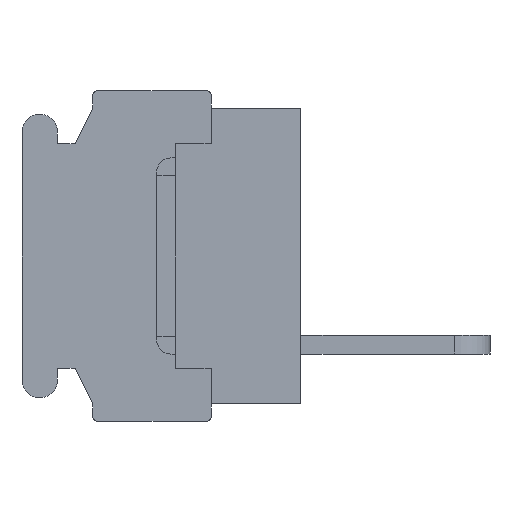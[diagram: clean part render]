
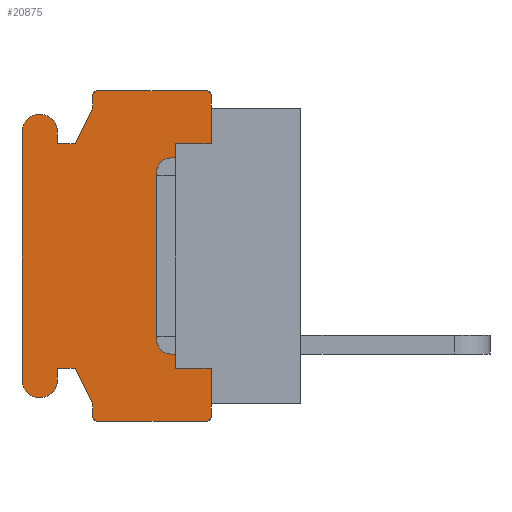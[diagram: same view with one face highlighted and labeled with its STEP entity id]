
A CAD part, left-side view. The second image highlights one B-rep face of the part: STEP entity #20875.
In plain terms, the highlighted planar face has unit normal (-1, 0, 0).
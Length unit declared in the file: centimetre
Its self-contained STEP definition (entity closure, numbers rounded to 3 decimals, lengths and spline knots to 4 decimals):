
#1234=PLANE('',#34277);
#1985=VECTOR('',#22233,1.);
#3166=VECTOR('',#24839,1.);
#3167=VECTOR('',#24840,1.);
#3168=VECTOR('',#24843,1.);
#3169=VECTOR('',#24846,1.);
#3170=VECTOR('',#24847,1.);
#3171=VECTOR('',#24848,1.);
#3172=VECTOR('',#24849,1.);
#3173=VECTOR('',#24852,1.);
#3174=VECTOR('',#24855,1.);
#3175=VECTOR('',#24856,1.);
#3176=VECTOR('',#24857,1.);
#3177=VECTOR('',#24858,1.);
#3178=VECTOR('',#24861,1.);
#3179=VECTOR('',#24864,1.);
#3180=VECTOR('',#24865,1.);
#3181=VECTOR('',#24866,1.);
#3182=VECTOR('',#24867,1.);
#4213=LINE('',#27650,#1985);
#5394=LINE('',#31435,#3166);
#5395=LINE('',#31437,#3167);
#5396=LINE('',#31441,#3168);
#5397=LINE('',#31445,#3169);
#5398=LINE('',#31447,#3170);
#5399=LINE('',#31449,#3171);
#5400=LINE('',#31451,#3172);
#5401=LINE('',#31455,#3173);
#5402=LINE('',#31459,#3174);
#5403=LINE('',#31461,#3175);
#5404=LINE('',#31463,#3176);
#5405=LINE('',#31465,#3177);
#5406=LINE('',#31469,#3178);
#5407=LINE('',#31473,#3179);
#5408=LINE('',#31474,#3180);
#5409=LINE('',#31476,#3181);
#5410=LINE('',#31477,#3182);
#6382=VERTEX_POINT('',#27651);
#6383=VERTEX_POINT('',#27652);
#6479=VERTEX_POINT('',#27921);
#6514=VERTEX_POINT('',#27996);
#7494=VERTEX_POINT('',#31436);
#7495=VERTEX_POINT('',#31438);
#7496=VERTEX_POINT('',#31440);
#7497=VERTEX_POINT('',#31442);
#7498=VERTEX_POINT('',#31444);
#7499=VERTEX_POINT('',#31446);
#7500=VERTEX_POINT('',#31448);
#7501=VERTEX_POINT('',#31450);
#7502=VERTEX_POINT('',#31452);
#7503=VERTEX_POINT('',#31454);
#7504=VERTEX_POINT('',#31456);
#7505=VERTEX_POINT('',#31458);
#7506=VERTEX_POINT('',#31460);
#7507=VERTEX_POINT('',#31462);
#7508=VERTEX_POINT('',#31464);
#7509=VERTEX_POINT('',#31466);
#7510=VERTEX_POINT('',#31468);
#7511=VERTEX_POINT('',#31470);
#7512=VERTEX_POINT('',#31472);
#7513=VERTEX_POINT('',#31475);
#8254=CIRCLE('',#34278,0.02);
#8255=CIRCLE('',#34279,0.02);
#8256=CIRCLE('',#34280,0.075);
#8257=CIRCLE('',#34281,0.075);
#8258=CIRCLE('',#34282,0.02);
#8259=CIRCLE('',#34283,0.02);
#9068=EDGE_CURVE('',#6382,#6383,#4213,.T.);
#10751=EDGE_CURVE('',#7494,#6479,#5394,.T.);
#10752=EDGE_CURVE('',#7495,#6479,#5395,.T.);
#10753=EDGE_CURVE('',#7496,#7495,#8254,.T.);
#10754=EDGE_CURVE('',#7497,#7496,#5396,.T.);
#10755=EDGE_CURVE('',#7498,#7497,#8255,.T.);
#10756=EDGE_CURVE('',#7499,#7498,#5397,.T.);
#10757=EDGE_CURVE('',#7500,#7499,#5398,.T.);
#10758=EDGE_CURVE('',#7501,#7500,#5399,.T.);
#10759=EDGE_CURVE('',#7502,#7501,#5400,.T.);
#10760=EDGE_CURVE('',#7503,#7502,#8256,.T.);
#10761=EDGE_CURVE('',#7504,#7503,#5401,.T.);
#10762=EDGE_CURVE('',#7505,#7504,#8257,.T.);
#10763=EDGE_CURVE('',#7506,#7505,#5402,.T.);
#10764=EDGE_CURVE('',#7507,#7506,#5403,.T.);
#10765=EDGE_CURVE('',#7508,#7507,#5404,.T.);
#10766=EDGE_CURVE('',#7509,#7508,#5405,.T.);
#10767=EDGE_CURVE('',#7510,#7509,#8258,.T.);
#10768=EDGE_CURVE('',#7511,#7510,#5406,.T.);
#10769=EDGE_CURVE('',#7512,#7511,#8259,.T.);
#10770=EDGE_CURVE('',#6514,#7512,#5407,.T.);
#10771=EDGE_CURVE('',#6514,#7513,#5408,.T.);
#10772=EDGE_CURVE('',#7513,#6382,#5409,.T.);
#10773=EDGE_CURVE('',#6383,#7494,#5410,.T.);
#16251=ORIENTED_EDGE('',*,*,#10751,.T.);
#16252=ORIENTED_EDGE('',*,*,#10752,.F.);
#16253=ORIENTED_EDGE('',*,*,#10753,.F.);
#16254=ORIENTED_EDGE('',*,*,#10754,.F.);
#16255=ORIENTED_EDGE('',*,*,#10755,.F.);
#16256=ORIENTED_EDGE('',*,*,#10756,.F.);
#16257=ORIENTED_EDGE('',*,*,#10757,.F.);
#16258=ORIENTED_EDGE('',*,*,#10758,.F.);
#16259=ORIENTED_EDGE('',*,*,#10759,.F.);
#16260=ORIENTED_EDGE('',*,*,#10760,.F.);
#16261=ORIENTED_EDGE('',*,*,#10761,.F.);
#16262=ORIENTED_EDGE('',*,*,#10762,.F.);
#16263=ORIENTED_EDGE('',*,*,#10763,.F.);
#16264=ORIENTED_EDGE('',*,*,#10764,.F.);
#16265=ORIENTED_EDGE('',*,*,#10765,.F.);
#16266=ORIENTED_EDGE('',*,*,#10766,.F.);
#16267=ORIENTED_EDGE('',*,*,#10767,.F.);
#16268=ORIENTED_EDGE('',*,*,#10768,.F.);
#16269=ORIENTED_EDGE('',*,*,#10769,.F.);
#16270=ORIENTED_EDGE('',*,*,#10770,.F.);
#16271=ORIENTED_EDGE('',*,*,#10771,.T.);
#16272=ORIENTED_EDGE('',*,*,#10772,.T.);
#16273=ORIENTED_EDGE('',*,*,#9068,.T.);
#16274=ORIENTED_EDGE('',*,*,#10773,.T.);
#18447=EDGE_LOOP('',(#16251,#16252,#16253,#16254,#16255,#16256,#16257,#16258,
#16259,#16260,#16261,#16262,#16263,#16264,#16265,#16266,#16267,#16268,#16269,
#16270,#16271,#16272,#16273,#16274));
#19717=FACE_BOUND('',#18447,.T.);
#20875=ADVANCED_FACE('',(#19717),#1234,.F.);
#22233=DIRECTION('',(0.,0.,1.));
#24838=DIRECTION('',(1.,0.,0.));
#24839=DIRECTION('',(0.,0.,1.));
#24840=DIRECTION('',(0.,0.,-1.));
#24841=DIRECTION('',(1.,0.,0.));
#24842=DIRECTION('',(0.,0.,-0.02));
#24843=DIRECTION('',(0.,-1.,0.));
#24844=DIRECTION('',(1.,0.,0.));
#24845=DIRECTION('',(0.,0.,-0.02));
#24846=DIRECTION('',(0.,0.,1.));
#24847=DIRECTION('',(0.,-0.447,0.894));
#24848=DIRECTION('',(0.,-1.,0.));
#24849=DIRECTION('',(0.,0.,-1.));
#24850=DIRECTION('',(1.,0.,0.));
#24851=DIRECTION('',(0.,0.,-0.075));
#24852=DIRECTION('',(0.,0.,1.));
#24853=DIRECTION('',(1.,0.,0.));
#24854=DIRECTION('',(0.,0.,-0.075));
#24855=DIRECTION('',(0.,0.,-1.));
#24856=DIRECTION('',(0.,1.,0.));
#24857=DIRECTION('',(0.,0.447,0.894));
#24858=DIRECTION('',(0.,0.,1.));
#24859=DIRECTION('',(1.,0.,0.));
#24860=DIRECTION('',(0.,0.,-0.02));
#24861=DIRECTION('',(0.,1.,0.));
#24862=DIRECTION('',(1.,0.,0.));
#24863=DIRECTION('',(0.,0.,-0.02));
#24864=DIRECTION('',(0.,0.,-1.));
#24865=DIRECTION('',(0.,0.,1.));
#24866=DIRECTION('',(0.,1.,0.));
#24867=DIRECTION('',(0.,-1.,0.));
#27650=CARTESIAN_POINT('',(-0.762,0.53,0.));
#27651=CARTESIAN_POINT('',(-0.762,0.53,-0.475));
#27652=CARTESIAN_POINT('',(-0.762,0.53,0.475));
#27921=CARTESIAN_POINT('',(-0.762,0.38,0.625));
#27996=CARTESIAN_POINT('',(-0.762,0.38,-0.625));
#31434=CARTESIAN_POINT('',(-0.762,0.6059,0.));
#31435=CARTESIAN_POINT('',(-0.762,0.38,0.275));
#31436=CARTESIAN_POINT('',(-0.762,0.38,0.475));
#31437=CARTESIAN_POINT('',(-0.762,0.38,0.68));
#31438=CARTESIAN_POINT('',(-0.762,0.38,0.68));
#31439=CARTESIAN_POINT('',(-0.762,0.4,0.68));
#31440=CARTESIAN_POINT('',(-0.762,0.4,0.7));
#31441=CARTESIAN_POINT('',(-0.762,0.86,0.7));
#31442=CARTESIAN_POINT('',(-0.762,0.86,0.7));
#31443=CARTESIAN_POINT('',(-0.762,0.86,0.68));
#31444=CARTESIAN_POINT('',(-0.762,0.88,0.68));
#31445=CARTESIAN_POINT('',(-0.762,0.88,0.625));
#31446=CARTESIAN_POINT('',(-0.762,0.88,0.625));
#31447=CARTESIAN_POINT('',(-0.762,0.955,0.475));
#31448=CARTESIAN_POINT('',(-0.762,0.955,0.475));
#31449=CARTESIAN_POINT('',(-0.762,1.03,0.475));
#31450=CARTESIAN_POINT('',(-0.762,1.03,0.475));
#31451=CARTESIAN_POINT('',(-0.762,1.03,0.525));
#31452=CARTESIAN_POINT('',(-0.762,1.03,0.525));
#31453=CARTESIAN_POINT('',(-0.762,1.105,0.525));
#31454=CARTESIAN_POINT('',(-0.762,1.18,0.525));
#31455=CARTESIAN_POINT('',(-0.762,1.18,-0.525));
#31456=CARTESIAN_POINT('',(-0.762,1.18,-0.525));
#31457=CARTESIAN_POINT('',(-0.762,1.105,-0.525));
#31458=CARTESIAN_POINT('',(-0.762,1.03,-0.525));
#31459=CARTESIAN_POINT('',(-0.762,1.03,-0.475));
#31460=CARTESIAN_POINT('',(-0.762,1.03,-0.475));
#31461=CARTESIAN_POINT('',(-0.762,0.955,-0.475));
#31462=CARTESIAN_POINT('',(-0.762,0.955,-0.475));
#31463=CARTESIAN_POINT('',(-0.762,0.88,-0.625));
#31464=CARTESIAN_POINT('',(-0.762,0.88,-0.625));
#31465=CARTESIAN_POINT('',(-0.762,0.88,-0.68));
#31466=CARTESIAN_POINT('',(-0.762,0.88,-0.68));
#31467=CARTESIAN_POINT('',(-0.762,0.86,-0.68));
#31468=CARTESIAN_POINT('',(-0.762,0.86,-0.7));
#31469=CARTESIAN_POINT('',(-0.762,0.4,-0.7));
#31470=CARTESIAN_POINT('',(-0.762,0.4,-0.7));
#31471=CARTESIAN_POINT('',(-0.762,0.4,-0.68));
#31472=CARTESIAN_POINT('',(-0.762,0.38,-0.68));
#31473=CARTESIAN_POINT('',(-0.762,0.38,-0.625));
#31474=CARTESIAN_POINT('',(-0.762,0.38,-0.275));
#31475=CARTESIAN_POINT('',(-0.762,0.38,-0.475));
#31476=CARTESIAN_POINT('',(-0.762,0.5304,-0.475));
#31477=CARTESIAN_POINT('',(-0.762,0.5304,0.475));
#34277=AXIS2_PLACEMENT_3D('',#31434,#24838,$);
#34278=AXIS2_PLACEMENT_3D('',#31439,#24841,#24842);
#34279=AXIS2_PLACEMENT_3D('',#31443,#24844,#24845);
#34280=AXIS2_PLACEMENT_3D('',#31453,#24850,#24851);
#34281=AXIS2_PLACEMENT_3D('',#31457,#24853,#24854);
#34282=AXIS2_PLACEMENT_3D('',#31467,#24859,#24860);
#34283=AXIS2_PLACEMENT_3D('',#31471,#24862,#24863);
